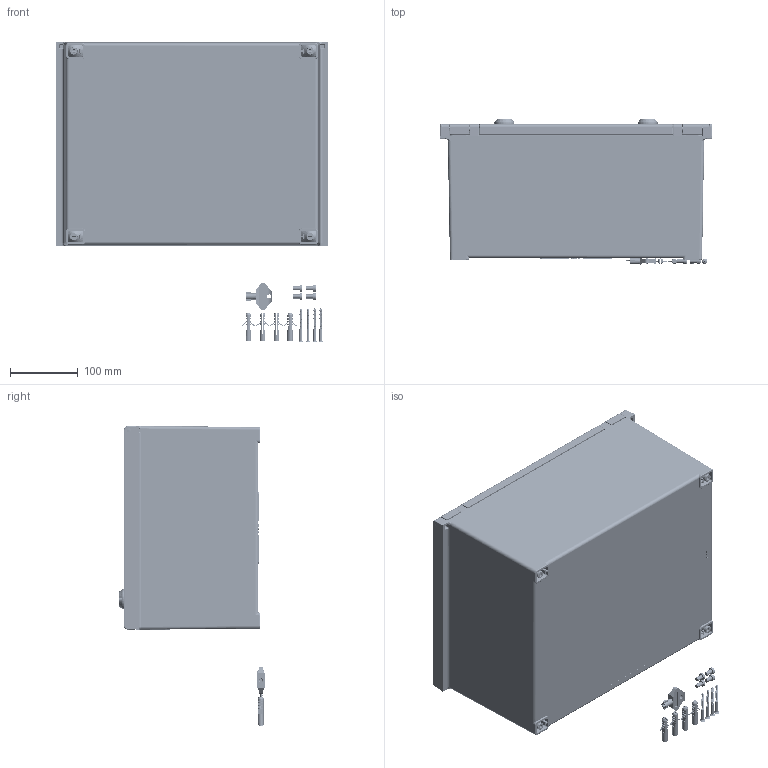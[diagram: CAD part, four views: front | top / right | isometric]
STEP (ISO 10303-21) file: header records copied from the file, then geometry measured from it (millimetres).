
FILE_DESCRIPTION(/* description */ (''),/* implementation_level */ '2;1');
FILE_NAME(/* name */ 'C:\Users\ahermoni\Desktop\42143200_PS 432.stp',/* time_stamp */ '2019-09-12T13:11:37+02:00',/* author */ ('ahermoni'),/* organization */ ('Fa. Bopla'),/* preprocessor_version */ 'ST-DEVELOPER v17.2',/* originating_system */ 'Autodesk Inventor 2019',/* authorisation */ '');
FILE_SCHEMA (('AUTOMOTIVE_DESIGN { 1 0 10303 214 3 1 1 }'));
Products named in the file (17): Bopla; Unterteil 1; Bopla_1; Tür 2; Bopla_2; Schloss; Bopla_3; Bopla_4; Bopla_5; Bopla_6; Bopla_7; Bopla_8; Bopla_9; Bopla_10; Bopla_11; Bopla_12; Gewindeeinsatz M6x8
Assembly tree (33 placements, depth 3):
  Bopla
    Unterteil 1
    Bopla_1
      Tür 2
      Bopla_2  x2
      Schloss  x2
      Bopla_3  x2
      Bopla_4
      Bopla_5
      Bopla_6
    Bopla_7
      Bopla_8  x4
      Bopla_9  x4
      Bopla_10
      Bopla_11  x4
    Bopla_12  x2
    Gewindeeinsatz M6x8  x5
Bounding box: 400 x 214.36 x 441.73 mm (x, y, z)
Volume: 1933998.8 mm3; surface area: 1281239 mm2
Topology: 39 solids, 51 shells, 4748 faces, 12034 edges, 7506 vertices
Faces by surface type: cylinder 1493, plane 1388, bspline 1254, cone 274, torus 239, sphere 100
Full cylindrical faces by diameter (mm): 2 x2, 2.62 x56, 3 x30, 3.7 x2, 4 x8, 4.2 x4, 4.5 x5, 5 x8, 5.4 x4, 6 x12, 6.55 x1, 7 x4, 7.3 x15, 8 x4, 8.5 x1, 9 x1, 10 x11, 10.2 x2, 12 x5, 14 x2, 14.2 x2, 18.5 x2, 19.8 x2, 21 x2, 22 x4, 23 x2, 27 x2, 29 x4
Entity records: 202571 total; most frequent: CARTESIAN_POINT 123970, ORIENTED_EDGE 17125, DIRECTION 15380, EDGE_CURVE 8568, AXIS2_PLACEMENT_3D 5903, VERTEX_POINT 5316, EDGE_LOOP 3712, LINE 3574
